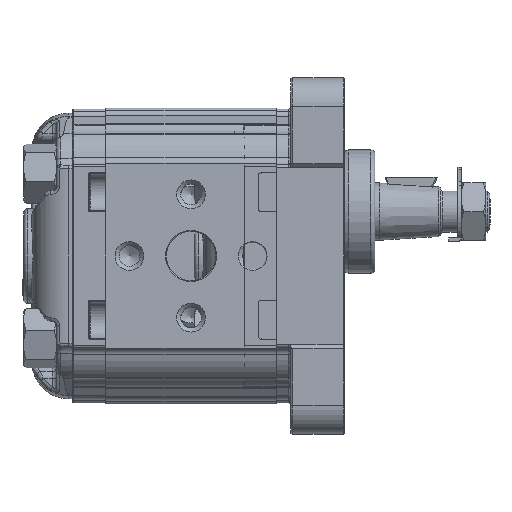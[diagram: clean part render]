
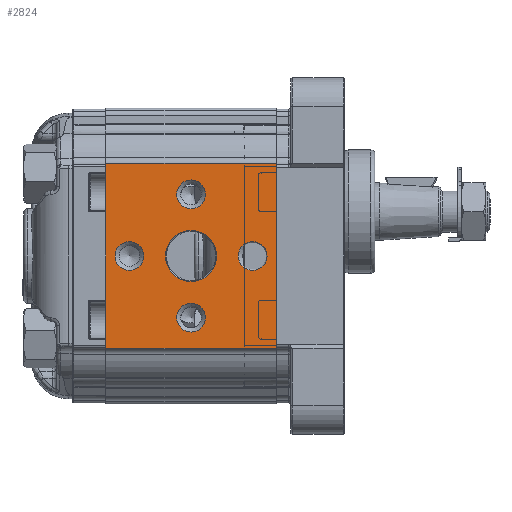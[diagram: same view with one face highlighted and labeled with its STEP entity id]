
A CAD part, left-side view. The second image highlights one B-rep face of the part: STEP entity #2824.
In plain terms, the highlighted planar face has unit normal (-1, 0, 0).
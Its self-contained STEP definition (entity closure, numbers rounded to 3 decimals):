
#2824 = ADVANCED_FACE( '', ( #7281, #7282, #7283, #7284, #7285, #7286 ), #7287, .T. );
#7281 = FACE_BOUND( '', #14346, .T. );
#7282 = FACE_BOUND( '', #14347, .T. );
#7283 = FACE_BOUND( '', #14348, .T. );
#7284 = FACE_BOUND( '', #14349, .T. );
#7285 = FACE_BOUND( '', #14350, .T. );
#7286 = FACE_OUTER_BOUND( '', #14351, .T. );
#7287 = PLANE( '', #14352 );
#14346 = EDGE_LOOP( '', ( #25228 ) );
#14347 = EDGE_LOOP( '', ( #25229 ) );
#14348 = EDGE_LOOP( '', ( #25230 ) );
#14349 = EDGE_LOOP( '', ( #25231 ) );
#14350 = EDGE_LOOP( '', ( #25232 ) );
#14351 = EDGE_LOOP( '', ( #25233, #25234, #25235, #25236 ) );
#14352 = AXIS2_PLACEMENT_3D( '', #25237, #25238, #25239 );
#25228 = ORIENTED_EDGE( '', *, *, #41535, .T. );
#25229 = ORIENTED_EDGE( '', *, *, #41536, .T. );
#25230 = ORIENTED_EDGE( '', *, *, #41537, .T. );
#25231 = ORIENTED_EDGE( '', *, *, #41538, .T. );
#25232 = ORIENTED_EDGE( '', *, *, #41539, .T. );
#25233 = ORIENTED_EDGE( '', *, *, #41540, .T. );
#25234 = ORIENTED_EDGE( '', *, *, #41541, .T. );
#25235 = ORIENTED_EDGE( '', *, *, #41542, .T. );
#25236 = ORIENTED_EDGE( '', *, *, #41543, .F. );
#25237 = CARTESIAN_POINT( '', ( -33., 124.842, 48.138 ) );
#25238 = DIRECTION( '', ( -1., 0., 0. ) );
#25239 = DIRECTION( '', ( 0., 0., 1. ) );
#41535 = EDGE_CURVE( '', #49940, #49940, #49941, .F. );
#41536 = EDGE_CURVE( '', #49942, #49942, #49943, .F. );
#41537 = EDGE_CURVE( '', #49944, #49944, #49945, .F. );
#41538 = EDGE_CURVE( '', #49946, #49946, #49947, .F. );
#41539 = EDGE_CURVE( '', #49948, #49948, #49949, .F. );
#41540 = EDGE_CURVE( '', #49950, #49951, #49952, .T. );
#41541 = EDGE_CURVE( '', #49951, #49953, #49954, .T. );
#41542 = EDGE_CURVE( '', #49953, #49955, #49956, .F. );
#41543 = EDGE_CURVE( '', #49950, #49955, #49957, .T. );
#49940 = VERTEX_POINT( '', #63570 );
#49941 = CIRCLE( '', #63571, 3.5 );
#49942 = VERTEX_POINT( '', #63572 );
#49943 = CIRCLE( '', #63573, 3.5 );
#49944 = VERTEX_POINT( '', #63574 );
#49945 = CIRCLE( '', #63575, 3.5 );
#49946 = VERTEX_POINT( '', #63576 );
#49947 = CIRCLE( '', #63577, 3.5 );
#49948 = VERTEX_POINT( '', #63578 );
#49949 = CIRCLE( '', #63579, 6.2 );
#49950 = VERTEX_POINT( '', #63580 );
#49951 = VERTEX_POINT( '', #63581 );
#49952 = LINE( '', #63582, #63583 );
#49953 = VERTEX_POINT( '', #63584 );
#49954 = LINE( '', #63585, #63586 );
#49955 = VERTEX_POINT( '', #63587 );
#49956 = LINE( '', #63588, #63589 );
#49957 = LINE( '', #63590, #63591 );
#63570 = CARTESIAN_POINT( '', ( -33., 20.75, -11.5 ) );
#63571 = AXIS2_PLACEMENT_3D( '', #78567, #78568, #78569 );
#63572 = CARTESIAN_POINT( '', ( -33., 5.75, 3.5 ) );
#63573 = AXIS2_PLACEMENT_3D( '', #78570, #78571, #78572 );
#63574 = CARTESIAN_POINT( '', ( -33., 20.75, 18.5 ) );
#63575 = AXIS2_PLACEMENT_3D( '', #78573, #78574, #78575 );
#63576 = CARTESIAN_POINT( '', ( -33., 35.75, 3.5 ) );
#63577 = AXIS2_PLACEMENT_3D( '', #78576, #78577, #78578 );
#63578 = CARTESIAN_POINT( '', ( -33., 20.75, 6.2 ) );
#63579 = AXIS2_PLACEMENT_3D( '', #78579, #78580, #78581 );
#63580 = CARTESIAN_POINT( '', ( -33., 41.5, -22.5 ) );
#63581 = CARTESIAN_POINT( '', ( -33., 0., -22.5 ) );
#63582 = CARTESIAN_POINT( '', ( -33., 41.5, -22.5 ) );
#63583 = VECTOR( '', #78582, 1000. );
#63584 = CARTESIAN_POINT( '', ( -33., 0., 22.5 ) );
#63585 = CARTESIAN_POINT( '', ( -33., 0., -21.711 ) );
#63586 = VECTOR( '', #78583, 1000. );
#63587 = CARTESIAN_POINT( '', ( -33., 41.5, 22.5 ) );
#63588 = CARTESIAN_POINT( '', ( -33., 41.5, 22.5 ) );
#63589 = VECTOR( '', #78584, 1000. );
#63590 = CARTESIAN_POINT( '', ( -33., 41.5, -21.711 ) );
#63591 = VECTOR( '', #78585, 1000. );
#78567 = CARTESIAN_POINT( '', ( -33., 20.75, -15. ) );
#78568 = DIRECTION( '', ( -1., 0., 0. ) );
#78569 = DIRECTION( '', ( 0., 0., 1. ) );
#78570 = CARTESIAN_POINT( '', ( -33., 5.75, 0. ) );
#78571 = DIRECTION( '', ( -1., 0., 0. ) );
#78572 = DIRECTION( '', ( 0., 0., 1. ) );
#78573 = CARTESIAN_POINT( '', ( -33., 20.75, 15. ) );
#78574 = DIRECTION( '', ( -1., 0., 0. ) );
#78575 = DIRECTION( '', ( 0., 0., 1. ) );
#78576 = CARTESIAN_POINT( '', ( -33., 35.75, 0. ) );
#78577 = DIRECTION( '', ( -1., 0., 0. ) );
#78578 = DIRECTION( '', ( 0., 0., 1. ) );
#78579 = CARTESIAN_POINT( '', ( -33., 20.75, 0. ) );
#78580 = DIRECTION( '', ( -1., 0., 0. ) );
#78581 = DIRECTION( '', ( 0., 0., 1. ) );
#78582 = DIRECTION( '', ( 0., -1., 0. ) );
#78583 = DIRECTION( '', ( 0., 0., 1. ) );
#78584 = DIRECTION( '', ( 0., -1., 0. ) );
#78585 = DIRECTION( '', ( 0., 0., 1. ) );
